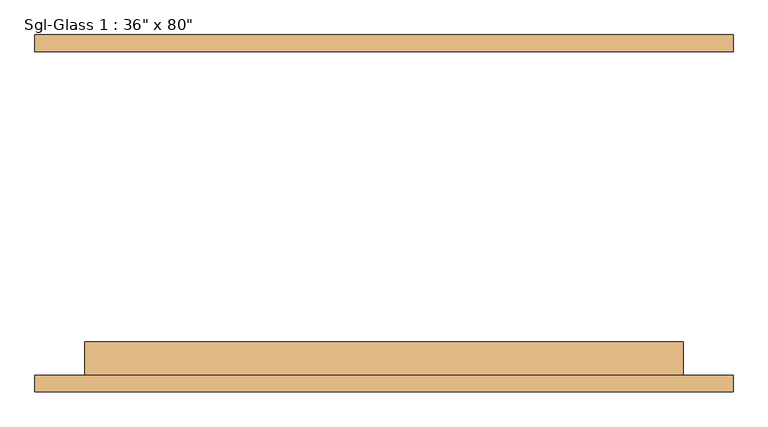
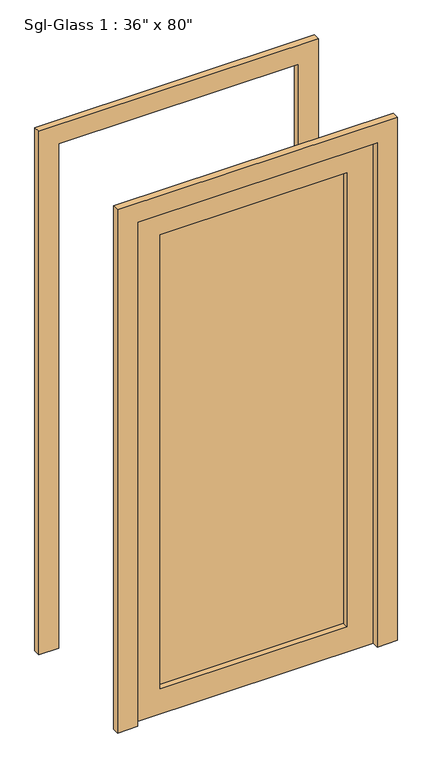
"""IFC4 building model written with IfcOpenShell, lengths in millimetres: door geometry."""

from ifc_helpers import new_model, si_unit, frame, origin, place, context, project, spatial, polyline, outline, extrude, source, transform, mapped, element, save


def door_dbfeadd9(model_context):
    return source(origin(), model_context, "Body", "SweptSolid", [
        extrude(outline(polyline([(2032.0, 457.2), (0.0, 457.2), (0.0, 533.4), (2108.2, 533.4), (2108.2, -533.4), (0.0, -533.4), (0.0, -457.2), (2032.0, -457.2), (2032.0, 457.2)])), frame((0.0, 247.65, 0.0), z_axis=(0.0, 1.0, 0.0), x_axis=(0.0, 0.0, 1.0)), (0.0, 0.0, 1.0), 25.4),
        extrude(outline(polyline([(2032.0, 457.2), (0.0, 457.2), (0.0, 533.4), (2108.2, 533.4), (2108.2, -533.4), (0.0, -533.4), (0.0, -457.2), (2032.0, -457.2), (2032.0, 457.2)])), frame((0.0, -273.05, 0.0), z_axis=(0.0, 1.0, 0.0), x_axis=(0.0, 0.0, 1.0)), (0.0, 0.0, 1.0), 25.4),
        extrude(outline(polyline([(355.6, -219.075), (355.6, -225.425), (-355.6, -225.425), (-355.6, -219.075), (355.6, -219.075)])), frame((0.0, 0.0, 101.6), z_axis=(0.0, 0.0, 1.0), x_axis=(1.0, 0.0, 0.0)), (0.0, 0.0, 1.0), 1828.8),
        extrude(outline(polyline([(2032.0, 457.2), (2032.0, -457.2), (0.0, -457.2), (0.0, 457.2), (2032.0, 457.2)]), holes=[polyline([(1930.4, -355.6), (1930.4, 355.6), (101.6, 355.6), (101.6, -355.6), (1930.4, -355.6)])]), frame((0.0, -247.65, 0.0), z_axis=(0.0, 1.0, 0.0), x_axis=(0.0, 0.0, 1.0)), (0.0, 0.0, 1.0), 50.8),
    ])


if __name__ == "__main__":
    model = new_model("IFC4")
    model_context = context("Model", 3, world=origin())
    ifc_project = project(units=[si_unit("LENGTHUNIT", "METRE", prefix="MILLI")], contexts=[model_context])
    site = spatial("IfcSite", under=ifc_project)
    building = spatial("IfcBuilding", under=site)
    placement = place(None, origin())
    door_shape = door_dbfeadd9(model_context)
    element("IfcDoor", 1, ObjectType="Sgl-Glass 1 : 36\" x 80\"", at=placement, inside=building, context=model_context, shape_type="MappedRepresentation", body=[
        mapped(door_shape, transform((0.0, 0.0, 0.0), x_axis=(1.0, 0.0, 0.0), y_axis=(0.0, 1.0, 0.0), z_axis=(0.0, 0.0, 1.0))),
    ])
    save(model, "model.ifc")
